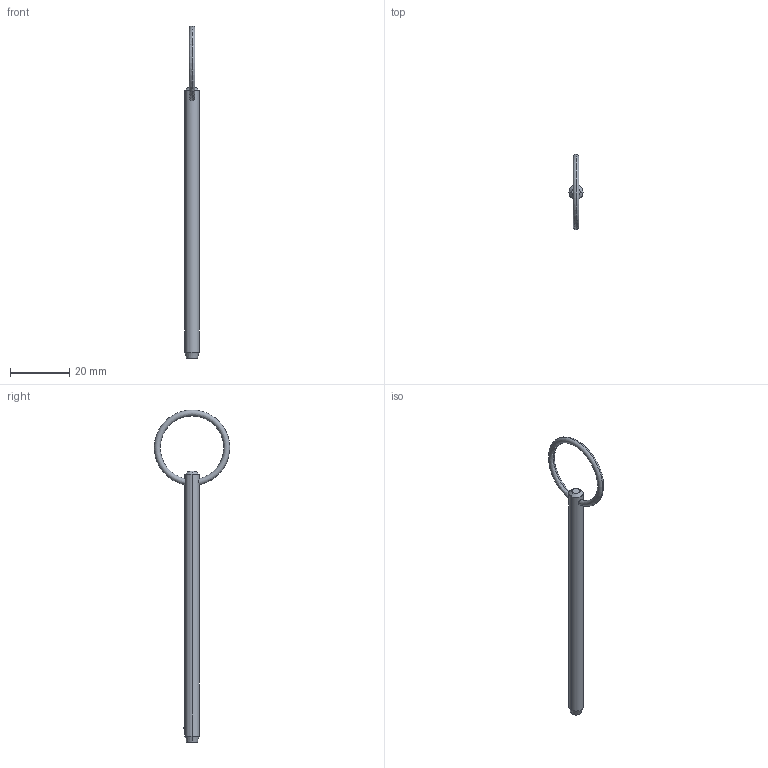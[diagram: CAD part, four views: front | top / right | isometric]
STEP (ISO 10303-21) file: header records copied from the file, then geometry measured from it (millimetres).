
FILE_DESCRIPTION (( 'STEP AP203' ), '1' );
FILE_NAME ('P1250.018-320.step', '2019-07-29T19:35:56', ( '' ), ( '' ), 'SwSTEP 2.0', 'SolidWorks 2017', '' );
FILE_SCHEMA (( 'CONFIG_CONTROL_DESIGN' ));
Length unit declared in the file: millimetre
Products named in the file (1): P1250.018-320
Bounding box: 4.76 x 25.4 x 111.78 mm (x, y, z)
Volume: 1824.1 mm3; surface area: 1805.8 mm2
Topology: 1 solids, 1 shells, 12 faces, 28 edges, 17 vertices
Faces by surface type: cone 4, torus 2, sphere 2, cylinder 2, plane 2
Entity records: 471 total; most frequent: CARTESIAN_POINT 138, DIRECTION 56, ORIENTED_EDGE 48, AXIS2_PLACEMENT_3D 25, EDGE_CURVE 24, EDGE_LOOP 15, VERTEX_POINT 15, FACE_OUTER_BOUND 12
